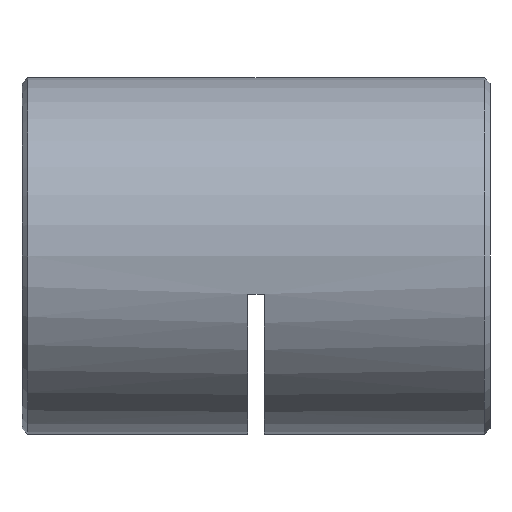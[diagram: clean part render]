
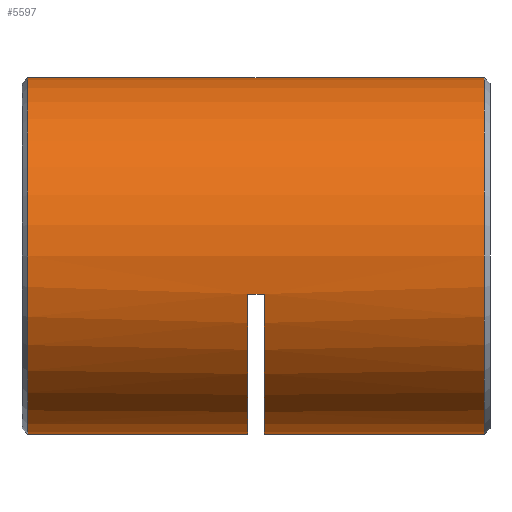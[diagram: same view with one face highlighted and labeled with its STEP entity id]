
A CAD part, left-side view. The second image highlights one B-rep face of the part: STEP entity #5597.
In plain terms, the highlighted cylindrical face has radius 16 mm (diameter 32 mm), a partial arc.
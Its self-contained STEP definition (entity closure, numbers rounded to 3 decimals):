
#222 = ORIENTED_EDGE ( 'NONE', *, *, #5026, .T. ) ;
#346 = ORIENTED_EDGE ( 'NONE', *, *, #631, .F. ) ;
#545 = EDGE_CURVE ( 'NONE', #3583, #5672, #5168, .T. ) ;
#565 = LINE ( 'NONE', #4433, #6260 ) ;
#631 = EDGE_CURVE ( 'NONE', #3706, #1972, #565, .T. ) ;
#728 = CARTESIAN_POINT ( 'NONE',  ( 0., 0.75, 16. ) ) ;
#760 = DIRECTION ( 'NONE',  ( 0., 0., -1. ) ) ;
#841 = CARTESIAN_POINT ( 'NONE',  ( 0., 42.5, -16. ) ) ;
#1079 = EDGE_CURVE ( 'NONE', #2341, #1983, #3867, .T. ) ;
#1128 = CARTESIAN_POINT ( 'NONE',  ( -15.632, 22., -3.413 ) ) ;
#1219 = DIRECTION ( 'NONE',  ( 0., -1., 0. ) ) ;
#1271 = LINE ( 'NONE', #5231, #5352 ) ;
#1322 = VERTEX_POINT ( 'NONE', #5287 ) ;
#1396 = EDGE_LOOP ( 'NONE', ( #346, #4271, #1985, #2415, #2857, #2962, #2149, #222 ) ) ;
#1691 = DIRECTION ( 'NONE',  ( 0., 0., -1. ) ) ;
#1696 = DIRECTION ( 'NONE',  ( 0., 1., 0. ) ) ;
#1711 = CARTESIAN_POINT ( 'NONE',  ( 0., 41.75, -16. ) ) ;
#1732 = CARTESIAN_POINT ( 'NONE',  ( 0., 0.75, -16. ) ) ;
#1961 = VECTOR ( 'NONE', #2351, 1000. ) ;
#1972 = VERTEX_POINT ( 'NONE', #728 ) ;
#1983 = VERTEX_POINT ( 'NONE', #1732 ) ;
#1985 = ORIENTED_EDGE ( 'NONE', *, *, #2248, .T. ) ;
#2061 = CARTESIAN_POINT ( 'NONE',  ( 0., 42.5, 0. ) ) ;
#2149 = ORIENTED_EDGE ( 'NONE', *, *, #1079, .T. ) ;
#2216 = DIRECTION ( 'NONE',  ( 0., 0., -1. ) ) ;
#2248 = EDGE_CURVE ( 'NONE', #5681, #5672, #3402, .T. ) ;
#2341 = VERTEX_POINT ( 'NONE', #2476 ) ;
#2351 = DIRECTION ( 'NONE',  ( 0., -1., 0. ) ) ;
#2415 = ORIENTED_EDGE ( 'NONE', *, *, #545, .F. ) ;
#2476 = CARTESIAN_POINT ( 'NONE',  ( 0., 20.5, -16. ) ) ;
#2520 = DIRECTION ( 'NONE',  ( 0., -1., 0. ) ) ;
#2649 = DIRECTION ( 'NONE',  ( 0., 0., 1. ) ) ;
#2777 = AXIS2_PLACEMENT_3D ( 'NONE', #4097, #1696, #2649 ) ;
#2857 = ORIENTED_EDGE ( 'NONE', *, *, #5179, .T. ) ;
#2962 = ORIENTED_EDGE ( 'NONE', *, *, #5734, .T. ) ;
#3041 = AXIS2_PLACEMENT_3D ( 'NONE', #3674, #3717, #5172 ) ;
#3125 = CYLINDRICAL_SURFACE ( 'NONE', #3978, 16. ) ;
#3402 = LINE ( 'NONE', #3466, #5313 ) ;
#3444 = CIRCLE ( 'NONE', #2777, 16. ) ;
#3466 = CARTESIAN_POINT ( 'NONE',  ( 0., 42.5, -16. ) ) ;
#3491 = CIRCLE ( 'NONE', #4209, 16. ) ;
#3583 = VERTEX_POINT ( 'NONE', #1128 ) ;
#3674 = CARTESIAN_POINT ( 'NONE',  ( 0., 22., 0. ) ) ;
#3706 = VERTEX_POINT ( 'NONE', #3896 ) ;
#3710 = CARTESIAN_POINT ( 'NONE',  ( 0., 20.5, 0. ) ) ;
#3717 = DIRECTION ( 'NONE',  ( 0., -1., 0. ) ) ;
#3732 = DIRECTION ( 'NONE',  ( 0., -1., 0. ) ) ;
#3791 = EDGE_CURVE ( 'NONE', #3706, #5681, #4437, .T. ) ;
#3867 = LINE ( 'NONE', #841, #1961 ) ;
#3896 = CARTESIAN_POINT ( 'NONE',  ( 0., 41.75, 16. ) ) ;
#3978 = AXIS2_PLACEMENT_3D ( 'NONE', #2061, #1219, #1691 ) ;
#4097 = CARTESIAN_POINT ( 'NONE',  ( 0., 0.75, 0. ) ) ;
#4209 = AXIS2_PLACEMENT_3D ( 'NONE', #3710, #3732, #760 ) ;
#4271 = ORIENTED_EDGE ( 'NONE', *, *, #3791, .T. ) ;
#4375 = AXIS2_PLACEMENT_3D ( 'NONE', #5113, #5629, #2216 ) ;
#4433 = CARTESIAN_POINT ( 'NONE',  ( 0., 42.5, 16. ) ) ;
#4437 = CIRCLE ( 'NONE', #4375, 16. ) ;
#4475 = CARTESIAN_POINT ( 'NONE',  ( 0., 22., -16. ) ) ;
#4883 = FACE_OUTER_BOUND ( 'NONE', #1396, .T. ) ;
#4954 = DIRECTION ( 'NONE',  ( 0., -1., 0. ) ) ;
#5026 = EDGE_CURVE ( 'NONE', #1983, #1972, #3444, .T. ) ;
#5113 = CARTESIAN_POINT ( 'NONE',  ( 0., 41.75, 0. ) ) ;
#5168 = CIRCLE ( 'NONE', #3041, 16. ) ;
#5172 = DIRECTION ( 'NONE',  ( 0., 0., -1. ) ) ;
#5179 = EDGE_CURVE ( 'NONE', #3583, #1322, #1271, .T. ) ;
#5191 = DIRECTION ( 'NONE',  ( 0., -1., 0. ) ) ;
#5231 = CARTESIAN_POINT ( 'NONE',  ( -15.632, 21.25, -3.413 ) ) ;
#5287 = CARTESIAN_POINT ( 'NONE',  ( -15.632, 20.5, -3.413 ) ) ;
#5313 = VECTOR ( 'NONE', #4954, 1000. ) ;
#5352 = VECTOR ( 'NONE', #5191, 1000. ) ;
#5597 = ADVANCED_FACE ( 'NONE', ( #4883 ), #3125, .T. ) ;
#5629 = DIRECTION ( 'NONE',  ( 0., -1., 0. ) ) ;
#5672 = VERTEX_POINT ( 'NONE', #4475 ) ;
#5681 = VERTEX_POINT ( 'NONE', #1711 ) ;
#5734 = EDGE_CURVE ( 'NONE', #1322, #2341, #3491, .T. ) ;
#6260 = VECTOR ( 'NONE', #2520, 1000. ) ;
